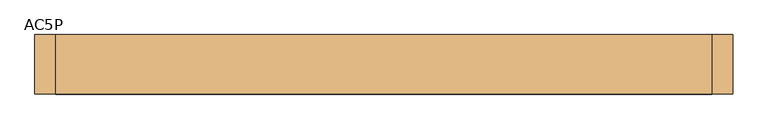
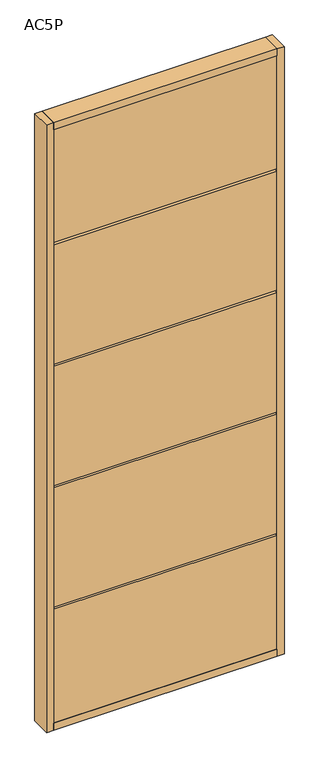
"""IFC4 building model written with IfcOpenShell, lengths in millimetres: door geometry, Mobiliário_Mobiliário de Escritório_Painel Cego - AC5P (Completo)_Marelli : AC5P."""

from ifc_helpers import new_model, si_unit, frame, origin, origin_with_axes, place, context, project, spatial, polyline, outline, extrude, source, transform, mapped, element, save


def ac5p_9849d78a(model_context):
    return source(origin(), model_context, "Body", "SweptSolid", [
        extrude(outline(polyline([(470.0, 42.5), (470.0, -42.5), (-470.0, -42.5), (-470.0, 42.5), (470.0, 42.5)])), origin_with_axes(), (0.0, 0.0, 1.0), 30.0),
        extrude(outline(polyline([(470.0, 39.5), (470.0, 21.5), (-470.0, 21.5), (-470.0, 39.5), (470.0, 39.5)])), frame((0.0, 0.0, 30.0), z_axis=(0.0, 0.0, 1.0), x_axis=(1.0, 0.0, 0.0)), (0.0, 0.0, 1.0), 505.0),
        extrude(outline(polyline([(470.0, 21.5), (470.0, -21.5), (-470.0, -21.5), (-470.0, 21.5), (470.0, 21.5)])), frame((0.0, 0.0, 518.5), z_axis=(0.0, 0.0, 1.0), x_axis=(1.0, 0.0, 0.0)), (0.0, 0.0, 1.0), 43.0),
        extrude(outline(polyline([(470.0, 21.5), (470.0, -21.5), (-470.0, -21.5), (-470.0, 21.5), (470.0, 21.5)])), frame((0.0, 0.0, 1058.5), z_axis=(0.0, 0.0, 1.0), x_axis=(1.0, 0.0, 0.0)), (0.0, 0.0, 1.0), 43.0),
        extrude(outline(polyline([(470.0, 39.5), (470.0, 21.5), (-470.0, 21.5), (-470.0, 39.5), (470.0, 39.5)])), frame((0.0, 0.0, 545.0), z_axis=(0.0, 0.0, 1.0), x_axis=(1.0, 0.0, 0.0)), (0.0, 0.0, 1.0), 530.0),
        extrude(outline(polyline([(470.0, -39.5), (-470.0, -39.5), (-470.0, -21.5), (470.0, -21.5), (470.0, -39.5)])), frame((0.0, 0.0, 30.0), z_axis=(0.0, 0.0, 1.0), x_axis=(1.0, 0.0, 0.0)), (0.0, 0.0, 1.0), 505.0),
        extrude(outline(polyline([(470.0, -39.5), (-470.0, -39.5), (-470.0, -21.5), (470.0, -21.5), (470.0, -39.5)])), frame((0.0, 0.0, 545.0), z_axis=(0.0, 0.0, 1.0), x_axis=(1.0, 0.0, 0.0)), (0.0, 0.0, 1.0), 530.0),
        extrude(outline(polyline([(470.0, 42.5), (470.0, -42.5), (-470.0, -42.5), (-470.0, 42.5), (470.0, 42.5)])), frame((0.0, 0.0, 2670.0), z_axis=(0.0, 0.0, 1.0), x_axis=(1.0, 0.0, 0.0)), (0.0, 0.0, 1.0), 30.0),
        extrude(outline(polyline([(470.0, 39.5), (470.0, 21.5), (-470.0, 21.5), (-470.0, 39.5), (470.0, 39.5)])), frame((0.0, 0.0, 1625.0), z_axis=(0.0, 0.0, 1.0), x_axis=(1.0, 0.0, 0.0)), (0.0, 0.0, 1.0), 530.0),
        extrude(outline(polyline([(470.0, 21.5), (470.0, -21.5), (-470.0, -21.5), (-470.0, 21.5), (470.0, 21.5)])), frame((0.0, 0.0, 2138.5), z_axis=(0.0, 0.0, 1.0), x_axis=(1.0, 0.0, 0.0)), (0.0, 0.0, 1.0), 43.0),
        extrude(outline(polyline([(470.0, 21.5), (470.0, -21.5), (-470.0, -21.5), (-470.0, 21.5), (470.0, 21.5)])), frame((0.0, 0.0, 1598.5), z_axis=(0.0, 0.0, 1.0), x_axis=(1.0, 0.0, 0.0)), (0.0, 0.0, 1.0), 43.0),
        extrude(outline(polyline([(470.0, -39.5), (-470.0, -39.5), (-470.0, -21.5), (470.0, -21.5), (470.0, -39.5)])), frame((0.0, 0.0, 1625.0), z_axis=(0.0, 0.0, 1.0), x_axis=(1.0, 0.0, 0.0)), (0.0, 0.0, 1.0), 530.0),
        extrude(outline(polyline([(-500.0, -42.5), (-500.0, 42.5), (-470.0, 42.5), (-470.0, -42.5), (-500.0, -42.5)])), origin_with_axes(), (0.0, 0.0, 1.0), 2700.0),
        extrude(outline(polyline([(500.0, -42.5), (470.0, -42.5), (470.0, 42.5), (500.0, 42.5), (500.0, -42.5)])), origin_with_axes(), (0.0, 0.0, 1.0), 2700.0),
        extrude(outline(polyline([(470.0, 39.5), (470.0, 21.5), (-470.0, 21.5), (-470.0, 39.5), (470.0, 39.5)])), frame((0.0, 0.0, 2165.0), z_axis=(0.0, 0.0, 1.0), x_axis=(1.0, 0.0, 0.0)), (0.0, 0.0, 1.0), 505.0),
        extrude(outline(polyline([(470.0, -39.5), (-470.0, -39.5), (-470.0, -21.5), (470.0, -21.5), (470.0, -39.5)])), frame((0.0, 0.0, 2165.0), z_axis=(0.0, 0.0, 1.0), x_axis=(1.0, 0.0, 0.0)), (0.0, 0.0, 1.0), 505.0),
        extrude(outline(polyline([(470.0, 39.5), (470.0, 21.5), (-470.0, 21.5), (-470.0, 39.5), (470.0, 39.5)])), frame((0.0, 0.0, 1085.0), z_axis=(0.0, 0.0, 1.0), x_axis=(1.0, 0.0, 0.0)), (0.0, 0.0, 1.0), 530.0),
        extrude(outline(polyline([(470.0, -39.5), (-470.0, -39.5), (-470.0, -21.5), (470.0, -21.5), (470.0, -39.5)])), frame((0.0, 0.0, 1085.0), z_axis=(0.0, 0.0, 1.0), x_axis=(1.0, 0.0, 0.0)), (0.0, 0.0, 1.0), 530.0),
    ])


if __name__ == "__main__":
    model = new_model("IFC4")
    model_context = context("Model", 3, world=origin())
    ifc_project = project(units=[si_unit("LENGTHUNIT", "METRE", prefix="MILLI")], contexts=[model_context])
    site = spatial("IfcSite", under=ifc_project)
    building = spatial("IfcBuilding", under=site)
    placement = place(None, origin())
    ac5p_shape = ac5p_9849d78a(model_context)
    element("IfcDoor", 1, ObjectType="Mobiliário_Mobiliário de Escritório_Painel Cego - AC5P (Completo)_Marelli : AC5P", at=placement, inside=building, context=model_context, shape_type="MappedRepresentation", body=[
        mapped(ac5p_shape, transform((0.0, 0.0, 0.0), x_axis=(1.0, 0.0, 0.0), y_axis=(0.0, 1.0, 0.0), z_axis=(0.0, 0.0, 1.0))),
    ])
    save(model, "model.ifc")
